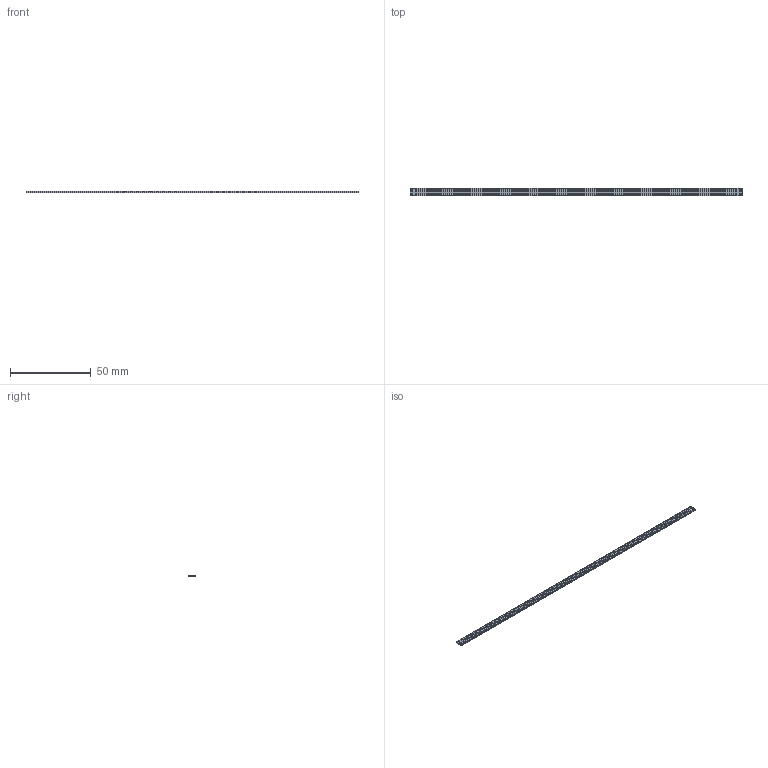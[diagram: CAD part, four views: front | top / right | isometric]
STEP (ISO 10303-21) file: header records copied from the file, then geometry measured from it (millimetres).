
FILE_DESCRIPTION (( 'STEP AP214' ), '1' );
FILE_NAME ('010462-MT068A-LZ154T1.STEP', '2021-06-01T09:14:38', ( '' ), ( '' ), 'SwSTEP 2.0', 'SolidWorks 2018', '' );
FILE_SCHEMA (( 'AUTOMOTIVE_DESIGN' ));
Length unit declared in the file: millimetre
Products named in the file (1): 010462-MT068A-LZ154T1
Bounding box: 205 x 4.5 x 0.77 mm (x, y, z)
Volume: 695.6 mm3; surface area: 2207 mm2
Topology: 1 solids, 1 shells, 801 faces, 1920 edges, 1280 vertices
Faces by surface type: plane 801
Entity records: 31557 total; most frequent: CARTESIAN_POINT 4002, ORIENTED_EDGE 3840, DIRECTION 3524, VECTOR 1920, EDGE_CURVE 1920, LINE 1920, VERTEX_POINT 1280, EDGE_LOOP 960
